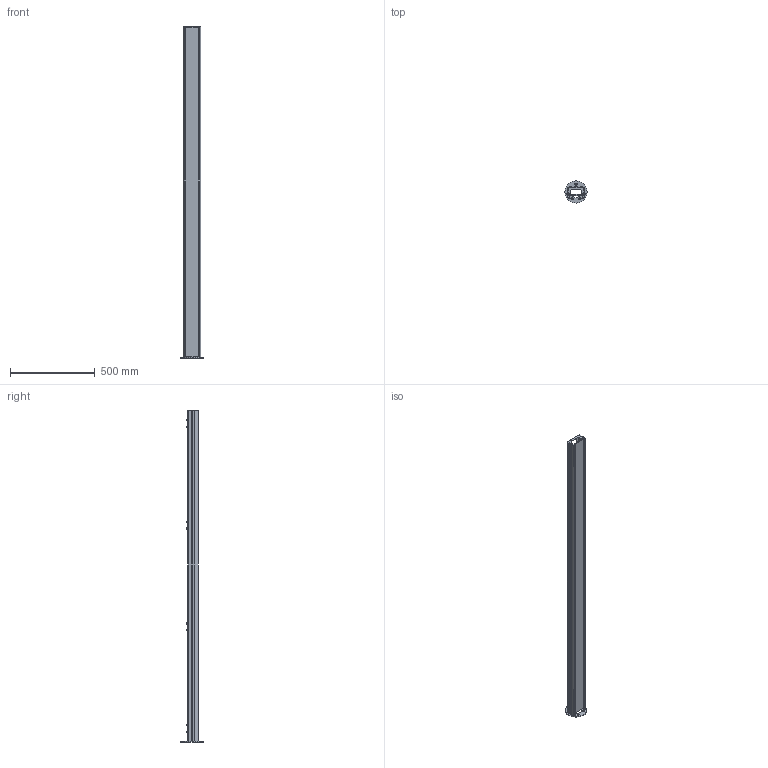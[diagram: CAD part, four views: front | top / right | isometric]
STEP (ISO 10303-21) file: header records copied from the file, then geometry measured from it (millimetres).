
FILE_DESCRIPTION(/* description */ (''),/* implementation_level */ '2;1');
FILE_NAME(/* name */ '0004A__SINGLE_MIRROR_WITH_GASKET-1950mm.stp',/* time_stamp */ '2025-11-12T15:31:15+01:00',/* author */ (''),/* organization */ (''),/* preprocessor_version */ 'ST-DEVELOPER v20',/* originating_system */ 'SIEMENS PLM Software NX2412.4001',/* authorisation */ '');
FILE_SCHEMA (('AP203_CONFIGURATION_CONTROLLED_3D_DESIGN_OF_MECHANICAL_PARTS_AND_ASSEMBLIES_MIM_LF { 1 0 10303 403 2 1 2}'));
Products named in the file (1): AS007808_objects
Bounding box: 130 x 130 x 1958.25 mm (x, y, z)
Volume: 7678198.6 mm3; surface area: 7421814 mm2
Topology: 105 solids, 105 shells, 4947 faces, 14082 edges, 9381 vertices
Faces by surface type: plane 2550, cylinder 1569, cone 796, torus 22, bspline 6, sphere 4
Full cylindrical faces by diameter (mm): 4.2 x16, 5 x328, 5.25 x2, 5.3 x16, 5.5 x32, 5.6 x16, 5.795 x2, 7 x16, 7.2 x4, 8.5 x16, 10 x16, 12 x5, 68 x1, 130 x1
Entity records: 176143 total; most frequent: CARTESIAN_POINT 41176, DIRECTION 28728, ORIENTED_EDGE 26504, EDGE_CURVE 13252, AXIS2_PLACEMENT_3D 10988, VERTEX_POINT 9054, LINE 6752, VECTOR 6752
